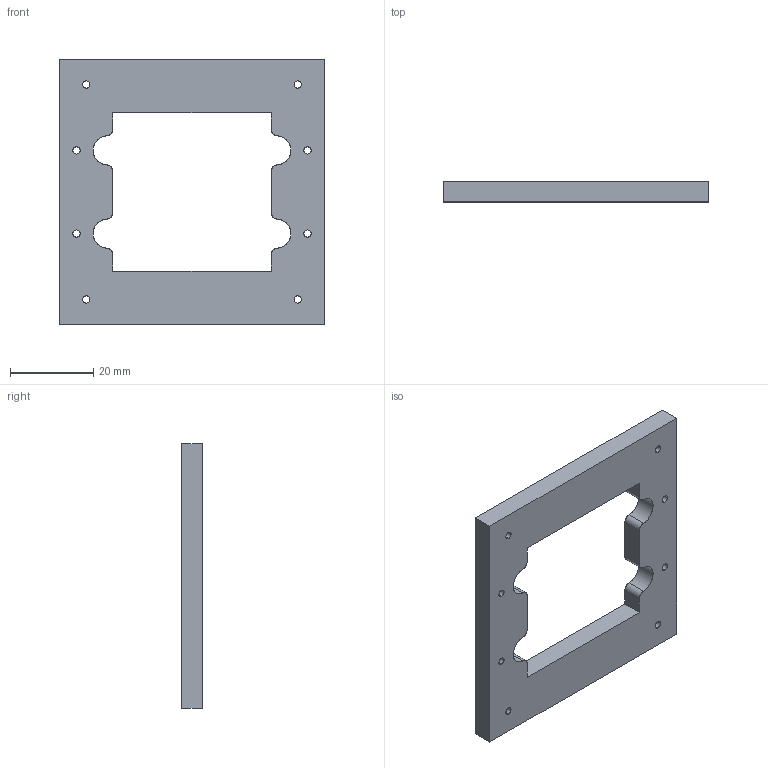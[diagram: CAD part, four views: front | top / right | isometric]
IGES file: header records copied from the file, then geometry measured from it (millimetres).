
Start section: SolidWorks IGES file using analytic representation for surfaces
Global section: file name: C:\Documents and Settings\Administrator\Desktop\coreXY\CoreXY EVT1\20110623\corexy1_xframe.IGS; native system: SolidWorks 2009; preprocessor: SolidWorks 2009; author: Administrator; date: 120423.190419; units: millimetre
Bounding box: 63.5 x 4.9 x 63.5 mm (x, y, z)
Surface area: 7201.5 mm2 (no closed solid volume)
Topology: 0 solids, 0 shells, 42 faces, 952 edges, 952 vertices
Faces by surface type: revolution 28, bspline 14
